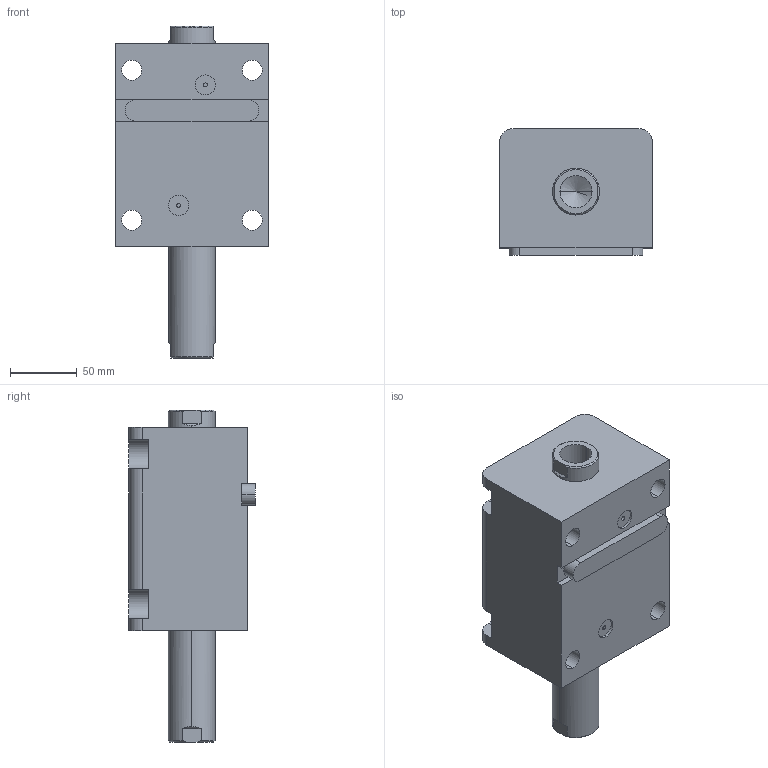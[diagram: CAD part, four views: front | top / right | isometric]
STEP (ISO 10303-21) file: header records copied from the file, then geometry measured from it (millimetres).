
FILE_DESCRIPTION (( 'STEP AP203' ), '1' );
FILE_NAME ('HTB-LWM63-70N.STEP', '2020-12-25T03:51:15', ( '微软用户' ), ( '微软中国' ), 'SwSTEP 2.0', 'SolidWorks 2012', '' );
FILE_SCHEMA (( 'CONFIG_CONTROL_DESIGN' ));
Length unit declared in the file: millimetre
Products named in the file (4): HTB-LWM63-瑩; HTB-LWM63-70N; HTB-LWM63-70掛极; HTB-LWM63-70N活塞杆
Assembly tree (3 placements, depth 2):
  HTB-LWM63-70N
    HTB-LWM63-70掛极
    HTB-LWM63-70N活塞杆
    HTB-LWM63-瑩
Bounding box: 114 x 94.5 x 248 mm (x, y, z)
Volume: 1369611.6 mm3; surface area: 169641.3 mm2
Topology: 3 solids, 3 shells, 105 faces, 261 edges, 168 vertices
Faces by surface type: cylinder 45, plane 44, torus 8, cone 8
Entity records: 3571 total; most frequent: CARTESIAN_POINT 592, DIRECTION 573, ORIENTED_EDGE 514, EDGE_CURVE 257, AXIS2_PLACEMENT_3D 221, VERTEX_POINT 168, LINE 131, VECTOR 131
